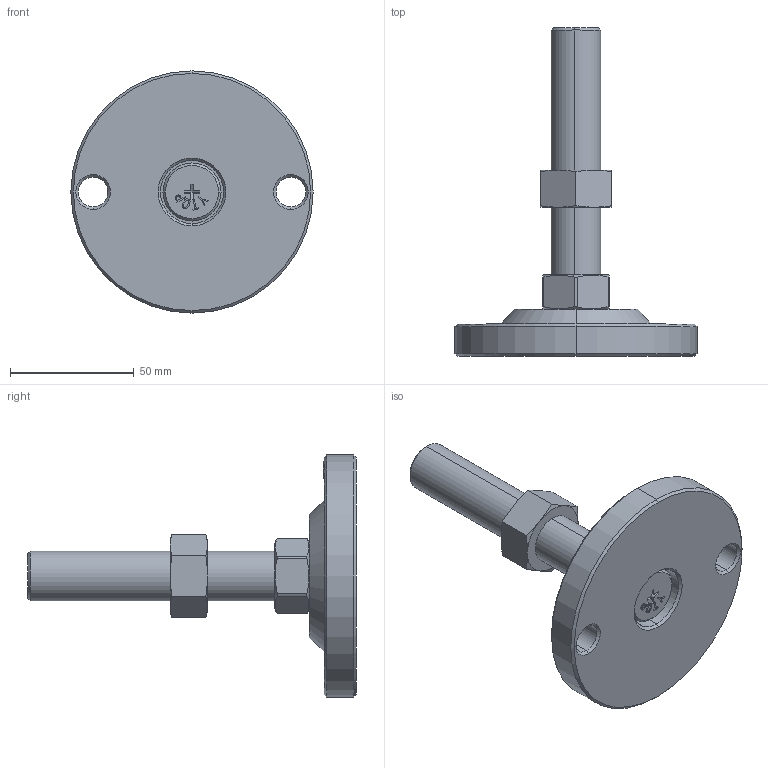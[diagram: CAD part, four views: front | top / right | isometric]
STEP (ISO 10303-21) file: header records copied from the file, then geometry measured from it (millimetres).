
FILE_DESCRIPTION (( 'STEP AP203' ), '1' );
FILE_NAME ('KL-100-20100-P.STEP', '2020-09-10T02:30:36', ( '' ), ( '' ), 'SwSTEP 2.0', 'SolidWorks 2016', '' );
FILE_SCHEMA (( 'CONFIG_CONTROL_DESIGN' ));
Length unit declared in the file: millimetre
Products named in the file (5): 眻芛蹟邡M20炵蹈_M20X100; 脚垫调节六角螺母M20; 螺丝平底十字带商标M10系列_M10X14; KL-100-0.1 KL100菁釱; KL-100-20100-P
Assembly tree (4 placements, depth 2):
  KL-100-20100-P
    KL-100-0.1 KL100菁釱
    眻芛蹟邡M20炵蹈_M20X100
    脚垫调节六角螺母M20
    螺丝平底十字带商标M10系列_M10X14
Bounding box: 98 x 133 x 98 mm (x, y, z)
Volume: 153497.2 mm3; surface area: 34584.1 mm2
Topology: 4 solids, 4 shells, 211 faces, 514 edges, 326 vertices
Faces by surface type: plane 101, cone 54, cylinder 32, bspline 24
Entity records: 8435 total; most frequent: CARTESIAN_POINT 3158, ORIENTED_EDGE 1020, DIRECTION 902, EDGE_CURVE 510, VERTEX_POINT 326, AXIS2_PLACEMENT_3D 306, LINE 290, VECTOR 290
